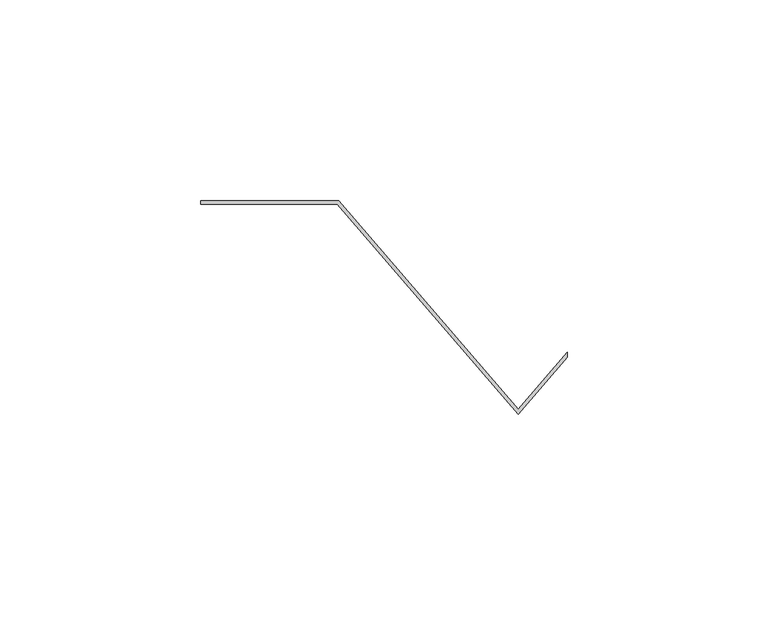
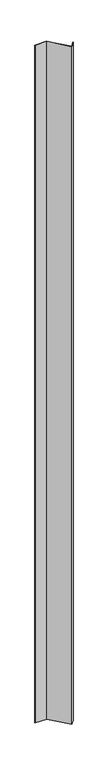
"""IFC4 building model written with IfcOpenShell, lengths in millimetres: plate geometry, HIANSA - H20.F09.008-CHAPA PERFILADA FACHADA VERTICAL - MT53MA7 - Panel de Muro Cortina : -."""

from ifc_helpers import new_model, si_unit, origin, origin_with_axes, place, context, project, spatial, polyline, outline, extrude, source, transform, mapped, element, save


def plate_67cbedeb(model_context):
    return source(origin(), model_context, "Body", "SweptSolid", [
        extrude(outline(polyline([(31.8164676, -51.8801207), (43.9999998, -37.7183111), (43.9999998, -38.9449777), (31.8164676, -53.1067873), (-13.1835324, -0.8), (-47.1835324, -0.8), (-47.1835324, 0.0), (-12.8164673, 0.0), (31.8164676, -51.8801207)])), origin_with_axes(), (0.0, 0.0, 1.0), 2128.0),
    ])


if __name__ == "__main__":
    model = new_model("IFC4")
    model_context = context("Model", 3, world=origin())
    ifc_project = project(units=[si_unit("LENGTHUNIT", "METRE", prefix="MILLI")], contexts=[model_context])
    site = spatial("IfcSite", under=ifc_project)
    building = spatial("IfcBuilding", under=site)
    placement = place(None, origin())
    plate_shape = plate_67cbedeb(model_context)
    element("IfcPlate", 1, ObjectType="HIANSA - H20.F09.008-CHAPA PERFILADA FACHADA VERTICAL - MT53MA7 - Panel de Muro Cortina : -", at=placement, inside=building, context=model_context, shape_type="MappedRepresentation", body=[
        mapped(plate_shape, transform((0.0, 0.0, 0.0), x_axis=(1.0, 0.0, 0.0), y_axis=(0.0, 1.0, 0.0), z_axis=(0.0, 0.0, 1.0))),
    ])
    save(model, "model.ifc")
